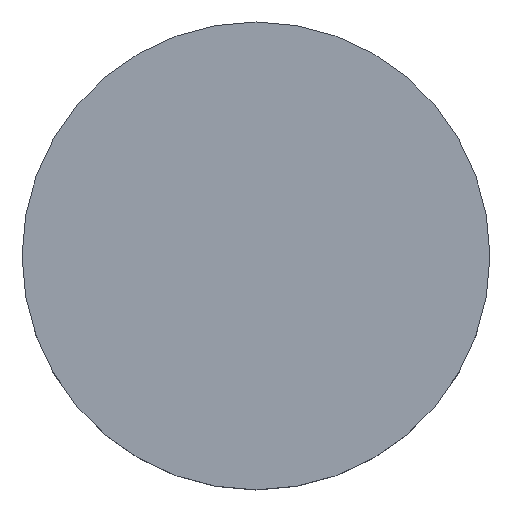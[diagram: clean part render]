
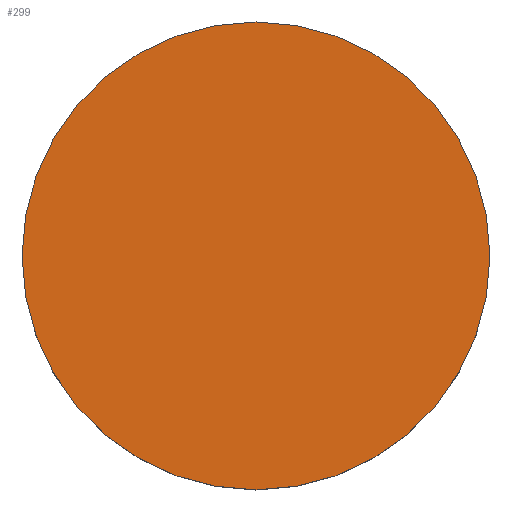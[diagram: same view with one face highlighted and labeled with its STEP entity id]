
A CAD part, top view. The second image highlights one B-rep face of the part: STEP entity #299.
In plain terms, the highlighted planar face has unit normal (0, 0, 1).
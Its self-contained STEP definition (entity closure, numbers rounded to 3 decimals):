
#256=CARTESIAN_POINT('Vertex',(3.,0.,16.7)) ;
#259=CARTESIAN_POINT('Axis2P3D Location',(0.,0.,16.7)) ;
#263=CARTESIAN_POINT('Vertex',(-3.,0.,16.7)) ;
#278=CARTESIAN_POINT('Axis2P3D Location',(0.,0.,16.7)) ;
#290=CARTESIAN_POINT('Axis2P3D Location',(0.,0.,16.7)) ;
#260=DIRECTION('Axis2P3D Direction',(0.,0.,1.)) ;
#279=DIRECTION('Axis2P3D Direction',(0.,0.,1.)) ;
#291=DIRECTION('Axis2P3D Direction',(0.,0.,1.)) ;
#292=DIRECTION('Axis2P3D XDirection',(1.,0.,0.)) ;
#261=AXIS2_PLACEMENT_3D('Circle Axis2P3D',#259,#260,$) ;
#280=AXIS2_PLACEMENT_3D('Circle Axis2P3D',#278,#279,$) ;
#293=AXIS2_PLACEMENT_3D('Plane Axis2P3D',#290,#291,#292) ;
#296=ORIENTED_EDGE('',*,*,#282,.T.) ;
#297=ORIENTED_EDGE('',*,*,#265,.T.) ;
#299=ADVANCED_FACE('\X2\96F64EF651E04F554F53\X0\',(#298),#294,.T.) ;
#262=CIRCLE('generated circle',#261,3.) ;
#281=CIRCLE('generated circle',#280,3.) ;
#265=EDGE_CURVE('',#264,#257,#262,.T.) ;
#282=EDGE_CURVE('',#257,#264,#281,.T.) ;
#295=EDGE_LOOP('',(#296,#297)) ;
#298=FACE_OUTER_BOUND('',#295,.T.) ;
#294=PLANE('',#293) ;
#257=VERTEX_POINT('',#256) ;
#264=VERTEX_POINT('',#263) ;
